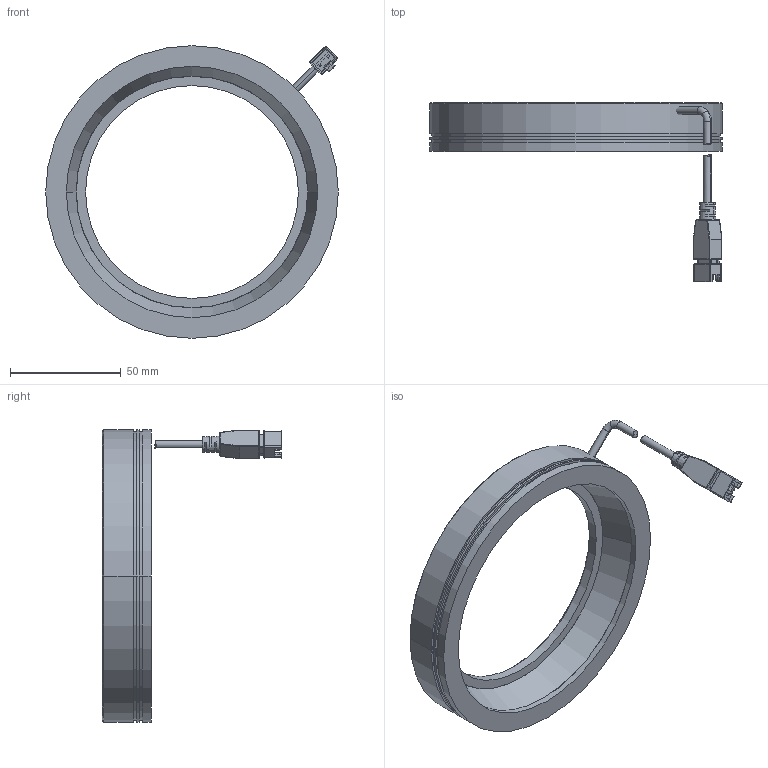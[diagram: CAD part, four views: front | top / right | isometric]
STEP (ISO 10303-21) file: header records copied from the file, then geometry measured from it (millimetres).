
FILE_DESCRIPTION((''),'2;1');
FILE_NAME('MV-LRDS-132-20_ASM','2019-09-19T',('rs-zhongwm'),(''),'PRO/ENGINEER BY PARAMETRIC TECHNOLOGY CORPORATION, 2010100','PRO/ENGINEER BY PARAMETRIC TECHNOLOGY CORPORATION, 2010100','');
FILE_SCHEMA(('CONFIG_CONTROL_DESIGN'));
Length unit declared in the file: millimetre
Products named in the file (5): PRT0047; PRT0048; PRT0049; ASM0028_ASM; MV-LRDS-132-20_ASM
Assembly tree (4 placements, depth 3):
  MV-LRDS-132-20_ASM
    PRT0047
    ASM0028_ASM
      PRT0048
      PRT0049
Bounding box: 132 x 80.8 x 132 mm (x, y, z)
Volume: 102970.7 mm3; surface area: 33195.2 mm2
Topology: 3 solids, 7 shells, 289 faces, 724 edges, 449 vertices
Faces by surface type: plane 140, cylinder 99, cone 22, torus 12, bspline 8, sphere 8
Entity records: 8887 total; most frequent: CARTESIAN_POINT 1852, DIRECTION 1494, ORIENTED_EDGE 1400, EDGE_CURVE 708, AXIS2_PLACEMENT_3D 538, VERTEX_POINT 449, VECTOR 418, LINE 418
